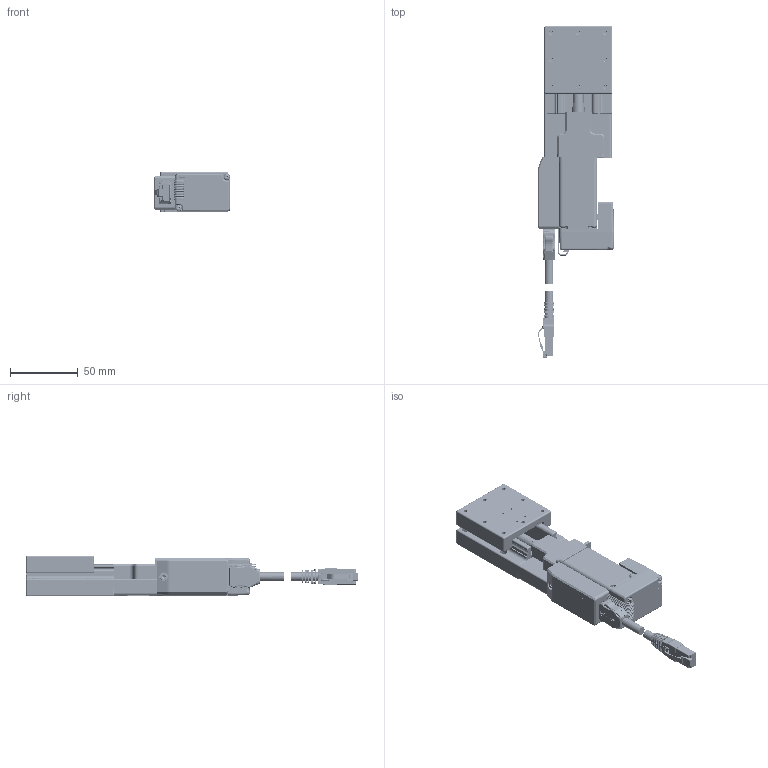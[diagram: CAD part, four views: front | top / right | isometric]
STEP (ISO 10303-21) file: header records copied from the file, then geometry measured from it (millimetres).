
FILE_DESCRIPTION(/* description */ (''),/* implementation_level */ '2;1');
FILE_NAME(/* name */ 'CXS5030-EzI-SERVO ALL-28M',/* time_stamp */ '2022-08-24T21:07:20+02:00',/* author */ (''),/* organization */ (''),/* preprocessor_version */ 'ST-DEVELOPER v16.7',/* originating_system */ 'Solid Edge',/* authorisation */ 'Unknown');
FILE_SCHEMA (('AP203_CONFIGURATION_CONTROLLED_3D_DESIGN_OF_MECHANICAL_PARTS_AND_ASSEMBLIES_MIM_LF { 1 0 10303 203 3 1 4 }','AUTOMOTIVE_DESIGN {1 0 10303 214 3 1 1}'));
Products named in the file (28): CXS5030-EzI-SERVO ALL-28M; CXS5030; Group1^CXS5030-S 模糊化_0; Group2^CXS5030-S 模糊化_0; 09451819000_100744258MOD000C; 09451511525_100534264MOD000A; Motorflansch-ix-001; ISO 4762_M2,5x5_8.8; ISO 4762_M3x10_8.8; EzI-SERVO ALL-28L; M16-EC-028-02-R00; M16-EC-028-01-R00; PCB-1-04; PCB-2-04; M1L-EC-028-03-R00; pan cross head_ks_KS 1023 PC- M2.5 x 8-N; BM12B-GHS-TBT; Condensador 10_17.5; 20PS-JMCS-G-1B-TF(N); 20R-JMCS-G-B-TF(NSA); M1L-MO-028-03-R01; JST-GHR-12V-S_with_terminals; JST_GHR-CONTACT; JST_GHR-12V-S; Gehäuse-ix-001; Platine-ix-001; PCB ix Industrial-001; 09452819001
Assembly tree (39 placements, depth 4):
  CXS5030-EzI-SERVO ALL-28M
    CXS5030
      Group1^CXS5030-S 模糊化_0
      Group2^CXS5030-S 模糊化_0
    09451819000_100744258MOD000C
    09451511525_100534264MOD000A
    Motorflansch-ix-001
    ISO 4762_M2,5x5_8.8
    ISO 4762_M3x10_8.8
    EzI-SERVO ALL-28L
      M16-EC-028-02-R00
      M16-EC-028-01-R00
      PCB-1-04
      PCB-2-04
      M1L-EC-028-03-R00
      pan cross head_ks_KS 1023 PC- M2.5 x 8-N  x2
      BM12B-GHS-TBT
      Condensador 10_17.5
      20PS-JMCS-G-1B-TF(N)
      20R-JMCS-G-B-TF(NSA)
      M1L-MO-028-03-R01
      JST-GHR-12V-S_with_terminals
        JST_GHR-CONTACT  x12
        JST_GHR-12V-S
    Gehäuse-ix-001
    Platine-ix-001
      PCB ix Industrial-001
      09452819001
Bounding box: 56.23 x 244.93 x 30 mm (x, y, z)
Volume: 154806.3 mm3; surface area: 79833.3 mm2
Topology: 35 solids, 37 shells, 8608 faces, 23924 edges, 15495 vertices
Faces by surface type: plane 5801, cylinder 2051, bspline 409, torus 158, cone 121, sphere 68
Full cylindrical faces by diameter (mm): 0.279 x1, 0.4 x2, 0.5 x14, 0.7 x3, 0.9 x54, 1 x36, 1.4 x54, 1.45 x2, 1.6 x4, 1.75 x2, 2.013 x2, 2.05 x6, 2.459 x1, 2.5 x11, 2.8 x4, 3 x2, 3.2 x1, 3.5 x5, 3.8 x1, 4.68 x1, 5 x3, 5.5 x6, 6 x2, 6.2 x1, 6.3 x1, 6.4 x1, 8 x2, 9.5 x1, 10 x1, 17 x2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
Entity records: 282819 total; most frequent: CARTESIAN_POINT 68036, ORIENTED_EDGE 39508, DIRECTION 35114, EDGE_CURVE 19784, LINE 15702, VECTOR 15702, VERTEX_POINT 13089, AXIS2_PLACEMENT_3D 9706
